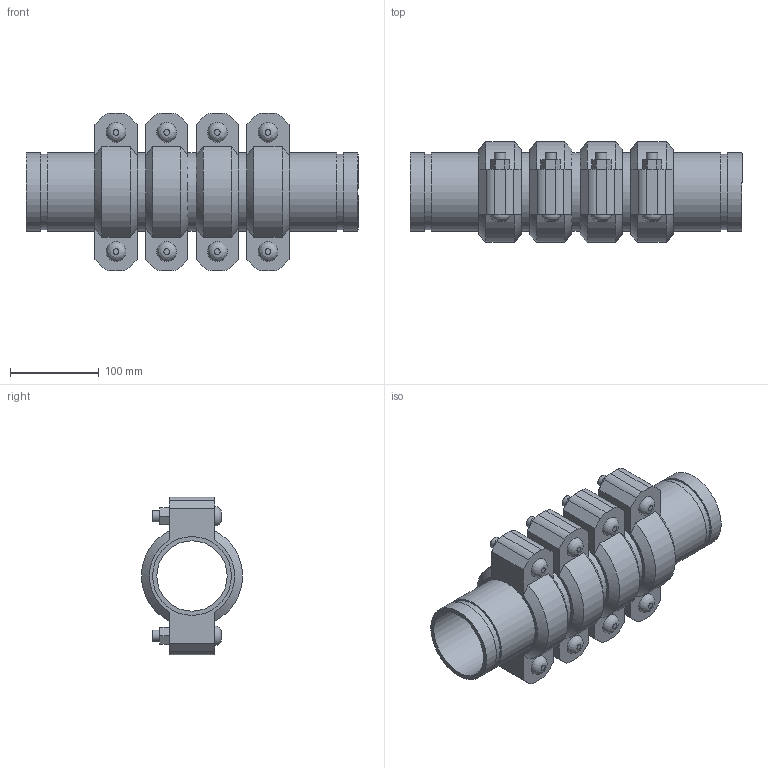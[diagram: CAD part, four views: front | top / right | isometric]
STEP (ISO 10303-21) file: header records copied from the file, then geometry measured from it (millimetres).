
FILE_DESCRIPTION(/* description */ ('VIC SS EXPANSION JOINT 4 COUPLINGS COMPRESSED STYLE 155P (OGS) (POTABLE WATER) ','CAx-IF Rec.Pracs.---Representation and Presentation of Product Manufacturing Information (PMI)---4.0---2014-10-13'),/* implementation_level */ '2;1');
FILE_NAME(/* name */ 'C:\Users\kkamble\AppData\Roaming\Autodesk\ApplicationPlugins\Victaulic.Temp\A932\Victaulic_SS_Expansion Joint_Compressed_4 Couplings_Style 155P (OGS)-Potable Water_4 Coup_Comp_3 (80).stp',/* time_stamp */ '2021-07-16T17:12:03+06:00',/* author */ ('kkamble'),/* organization */ ('Victaulic'),/* preprocessor_version */ 'ST-DEVELOPER v17.2',/* originating_system */ 'Autodesk Inventor 2019',/* authorisation */ '');
FILE_SCHEMA (('AP242_MANAGED_MODEL_BASED_3D_ENGINEERING_MIM_LF { 1 0 10303 442 1 1 4 }'));
Length unit declared in the file: inch
Products named in the file (4): 155P-03.0; Nipple-03.0; Nipple-03.0_1; 075-03.0
Assembly tree (9 placements, depth 2):
  155P-03.0
    Nipple-03.0  x2
    Nipple-03.0_1  x3
    075-03.0  x4
Bounding box: 374.65 x 113.88 x 177.8 mm (x, y, z)
Volume: 1758700.6 mm3; surface area: 457846.3 mm2
Topology: 9 solids, 17 shells, 272 faces, 658 edges, 464 vertices
Faces by surface type: plane 166, cylinder 82, cone 16, bspline 8
Full cylindrical faces by diameter (mm): 12.7 x16, 14.605 x8, 79.35 x5, 84.938 x10, 88.9 x19
Entity records: 2673 total; most frequent: CARTESIAN_POINT 479, DIRECTION 443, ORIENTED_EDGE 374, EDGE_CURVE 187, AXIS2_PLACEMENT_3D 176, VERTEX_POINT 134, EDGE_LOOP 101, LINE 91
